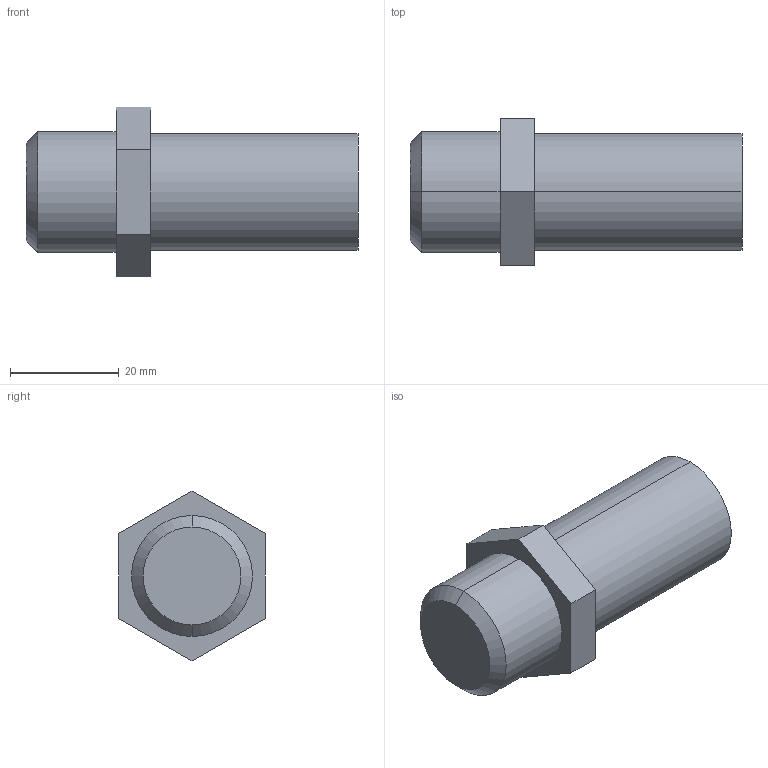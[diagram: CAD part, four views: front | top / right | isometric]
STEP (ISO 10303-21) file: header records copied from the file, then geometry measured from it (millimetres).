
FILE_DESCRIPTION (( 'STEP AP214' ), '1' );
FILE_NAME ('Fitting Weldable 08.STEP', '2012-09-26T22:08:11', ( '' ), ( '' ), 'SwSTEP 2.0', 'SolidWorks 2012', '' );
FILE_SCHEMA (( 'AUTOMOTIVE_DESIGN' ));
Length unit declared in the file: inch
Products named in the file (1): Fitting Weldable 08
Bounding box: 60.99 x 27 x 31.18 mm (x, y, z)
Volume: 24062.2 mm3; surface area: 5487.8 mm2
Topology: 1 solids, 1 shells, 16 faces, 34 edges, 22 vertices
Faces by surface type: plane 10, cylinder 4, cone 2
Entity records: 511 total; most frequent: DIRECTION 78, CARTESIAN_POINT 73, ORIENTED_EDGE 68, EDGE_CURVE 34, AXIS2_PLACEMENT_3D 27, LINE 24, VECTOR 24, VERTEX_POINT 22
